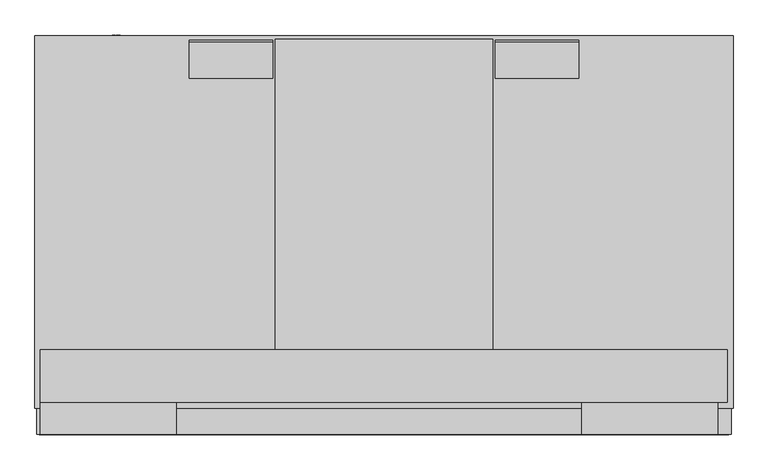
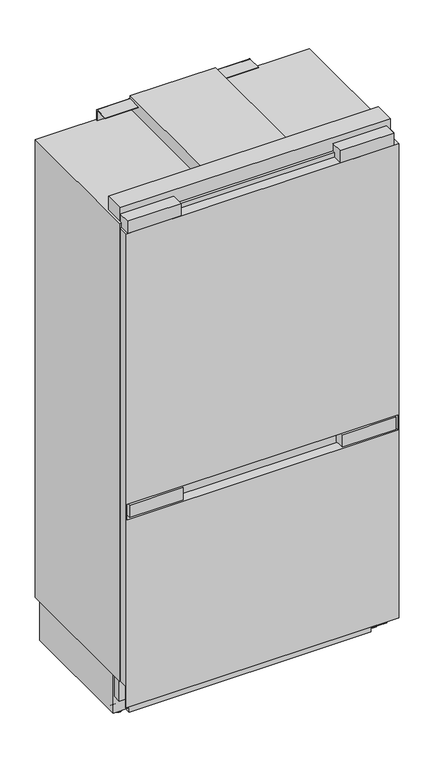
"""IFC4 building model written with IfcOpenShell, lengths in millimetres: proxy geometry, 12489440_USA_KFMC3858_FD : 38385820_USA_12489440_KFMC3858_FD."""

from ifc_helpers import new_model, si_unit, point, frame, frame_2d, origin, place, context, project, spatial, polyline, circle_curve, trimmed, segment, composite_curve, outline, extrude, faceted_brep, source, transform, mapped, element, save
from ifc_brep_helpers import plane_surface, cylinder_surface, advanced_brep


def specialty_equipment_91e2be40(model_context):
    return source(origin(), model_context, "Body", "SolidModel", [
        faceted_brep([(530.65, 19.5805006, 2048.9273907), (530.65, 19.5805006, 100.0958717), (530.65, 22.474204, 100.0958717), (530.65, 22.474204, 187.4499998), (530.65, 66.0, 187.4499998), (530.65, 66.0, 100.0958717), (530.65, 99.0001378, 100.0958717), (530.65, 99.0001378, 2048.9273907), (-530.65, 19.5805006, 2048.9273907), (-530.65, 99.0001378, 2048.9273907), (-530.65, 99.0001378, 100.0958717), (-530.65, 66.0, 100.0958717), (-530.65, 66.0, 187.4499998), (-530.65, 22.474204, 187.4499998), (-530.65, 22.474204, 100.0958717), (-530.65, 19.5805006, 100.0958717), (-526.65, 19.5805006, 934.8801375), (526.65, 19.5805006, 934.8801375), (526.65, 19.5805006, 872.4), (-526.65, 19.5805006, 872.4), (526.65, 93.7083842, 934.8801375), (-526.65, 93.7083842, 934.8801375), (-526.65, 93.7083842, 872.4), (526.65, 93.7083842, 872.4)], [[[0, 1, 2, 3, 4, 5, 6, 7]], [[8, 9, 10, 11, 12, 13, 14, 15]], [[1, 0, 8, 15], [16, 17, 18, 19]], [[1, 15, 14, 2]], [[10, 6, 5, 11]], [[7, 6, 10, 9]], [[0, 7, 9, 8]], [[13, 3, 2, 14]], [[4, 12, 11, 5]], [[3, 13, 12, 4]], [[20, 21, 22, 23]], [[21, 20, 17, 16]], [[22, 21, 16, 19]], [[23, 22, 19, 18]], [[20, 23, 18, 17]]]),
        extrude(outline(polyline([(-310.0497253, 19.5805006), (-517.949475, 19.5805006), (-517.949475, 69.0), (-310.0497253, 69.0), (-310.0497253, 19.5805006)])), frame((0.0, 0.0, 878.4), z_axis=(0.0, 0.0, 1.0), x_axis=(1.0, 0.0, 0.0)), (0.0, 0.0, 1.0), 50.4801375),
        extrude(outline(polyline([(517.949475, 19.5805006), (310.0497253, 19.5805006), (310.0497253, 69.0), (517.949475, 69.0), (517.949475, 19.5805006)])), frame((0.0, 0.0, 878.4), z_axis=(0.0, 0.0, 1.0), x_axis=(1.0, 0.0, 0.0)), (0.0, 0.0, 1.0), 50.4801375),
        extrude(outline(polyline([(-317.5994506, 19.5805006), (-525.4992003, 19.5805006), (-525.4992003, 69.0), (-317.5994506, 69.0), (-317.5994506, 19.5805006)])), frame((0.0, 0.0, 2048.9273907), z_axis=(0.0, 0.0, 1.0), x_axis=(1.0, 0.0, 0.0)), (0.0, 0.0, 1.0), 50.4801375),
        extrude(outline(polyline([(510.3997498, 19.5805006), (302.5, 19.5805006), (302.5, 69.0), (510.3997498, 69.0), (510.3997498, 19.5805006)])), frame((0.0, 0.0, 2048.9273907), z_axis=(0.0, 0.0, 1.0), x_axis=(1.0, 0.0, 0.0)), (0.0, 0.0, 1.0), 50.4801375),
        extrude(outline(composite_curve([segment(trimmed(circle_curve(frame_2d((619.3046941, 2111.8999939)), 2.5), [point((619.3046941, 2114.3999939))], [point((621.8046941, 2111.8999939))], False, "CARTESIAN"), True, "CONTINUOUS"), segment(polyline([(621.8046941, 2111.8999939), (621.8046941, 2068.8999998), (619.3046941, 2068.8999998), (619.3046941, 2112.2000427), (563.7854458, 2112.2000427), (563.7854458, 2114.3999939), (619.3046941, 2114.3999939)]), True, "CONTINUOUS")], self_intersect=False)), frame((170.0666274, 0.0, 0.0), z_axis=(1.0, 0.0, 0.0), x_axis=(0.0, 1.0, 0.0)), (0.0, 0.0, 1.0), 127.807223),
        extrude(outline(composite_curve([segment(trimmed(circle_curve(frame_2d((619.3046941, 2111.8999939)), 2.5), [point((619.3046941, 2114.3999939))], [point((621.8046941, 2111.8999939))], False, "CARTESIAN"), True, "CONTINUOUS"), segment(polyline([(621.8046941, 2111.8999939), (621.8046941, 2068.8999998), (619.3046941, 2068.8999998), (619.3046941, 2112.2000427), (563.7854458, 2112.2000427), (563.7854458, 2114.3999939), (619.3046941, 2114.3999939)]), True, "CONTINUOUS")], self_intersect=False)), frame((-297.8738504, 0.0, 0.0), z_axis=(1.0, 0.0, 0.0), x_axis=(0.0, 1.0, 0.0)), (0.0, 0.0, 1.0), 127.807223),
        faceted_brep([(533.5, 628.6068181, 2068.8999998), (-533.5, 628.6068181, 2068.8999998), (-533.5, 59.5250826, 2068.8999998), (533.5, 59.5250826, 2068.8999998), (533.5, 628.6068181, 187.4499998), (533.5, 59.5250826, 187.4499998), (-533.5, 59.5250826, 187.4499998), (-533.5, 628.6068181, 187.4499998), (-484.5265198, 59.5250826, 1999.0), (484.5265198, 59.5250826, 1999.0), (484.5265198, 59.5250826, 920.0), (-484.5265198, 59.5250826, 920.0), (-484.5265198, 59.5250826, 777.0), (484.5265198, 59.5250826, 777.0), (484.5265198, 59.5250826, 250.0), (-484.5265198, 59.5250826, 250.0), (484.5265198, 551.4500008, 1999.0), (-484.5265198, 551.4500008, 1999.0), (-484.5265198, 551.4500008, 920.0), (484.5265198, 551.4500008, 920.0), (484.5265198, 535.9500008, 777.0), (-484.5265198, 535.9500008, 777.0), (-484.5265198, 535.9500008, 250.0), (484.5265198, 535.9500008, 250.0)], [[[0, 1, 2, 3]], [[4, 5, 6, 7]], [[0, 3, 5, 4]], [[3, 2, 6, 5], [8, 9, 10, 11], [12, 13, 14, 15]], [[2, 1, 7, 6]], [[1, 0, 4, 7]], [[16, 17, 18, 19]], [[17, 16, 9, 8]], [[18, 17, 8, 11]], [[19, 18, 11, 10]], [[16, 19, 10, 9]], [[20, 21, 22, 23]], [[21, 20, 13, 12]], [[22, 21, 12, 15]], [[23, 22, 15, 14]], [[20, 23, 14, 13]]]),
        advanced_brep(
        [(-532.0, 599.2160102, 187.4499998), (532.0, 599.2160102, 187.4499998), (532.0, 599.2160102, 27.500001), (469.8898346, 599.2160102, 27.500001), (469.8898346, 599.2160102, 10.4), (-469.8898346, 599.2160102, 10.4), (-469.8898346, 599.2160102, 27.500001), (-532.0, 599.2160102, 27.500001), (532.0, 104.7548689, 187.4499998), (-532.0, 104.7548689, 187.4499998), (-532.0, 104.7548689, 27.500001), (-469.8898346, 104.7548689, 27.500001), (-469.8898346, 104.7548689, 10.4), (469.8898346, 104.7548689, 10.4), (469.8898346, 104.7548689, 27.500001), (532.0, 104.7548689, 27.500001), (-482.4950732, 165.8982312, 25.006546), (-482.4950732, 215.9113232, 25.006546), (-482.4950732, 215.7866989, 27.500001), (-482.4950732, 166.0228555, 27.500001), (-482.4950732, 488.6286933, 25.006546), (-482.4950732, 538.6417854, 25.006546), (-482.4950732, 538.517161, 27.500001), (-482.4950732, 488.7533177, 27.500001), (-500.0, 215.9113232, 25.006546), (-500.0, 165.8982312, 25.006546), (-500.0, 166.0228555, 27.500001), (-500.0, 215.7866989, 27.500001), (-500.0, 538.6417854, 25.006546), (-500.0, 488.6286933, 25.006546), (-500.0, 488.7533177, 27.500001), (-500.0, 538.517161, 27.500001), (500.0, 165.898139, 25.006546), (500.0, 215.911231, 25.006546), (500.0, 215.7866067, 27.500001), (500.0, 166.0227633, 27.500001), (500.0, 488.6286933, 25.006546), (500.0, 538.6417854, 25.006546), (500.0, 538.517161, 27.500001), (500.0, 488.7533177, 27.500001), (482.4950732, 215.911231, 25.006546), (482.4950732, 165.898139, 25.006546), (482.4950732, 166.0227633, 27.500001), (482.4950732, 215.7866067, 27.500001), (482.4950732, 538.6417854, 25.006546), (482.4950732, 488.6286933, 25.006546), (482.4950732, 488.7533177, 27.500001), (482.4950732, 538.517161, 27.500001)],
        [
            (0, 1),
            (1, 2),
            (2, 3),
            (3, 4),
            (4, 5),
            (5, 6),
            (6, 7),
            (7, 0),
            (8, 9),
            (9, 10),
            (10, 11),
            (11, 12),
            (12, 13),
            (13, 14),
            (14, 15),
            (15, 8),
            (0, 9),
            (8, 1),
            (7, 10),
            (4, 13),
            (12, 5),
            (15, 2),
            (16, 17, circle_curve(frame((-482.4950732, 190.9047772, 25.006546), z_axis=(1.0, 0.0, 0.0), x_axis=(0.0, 1.0, 0.0)), 25.006546)),
            (17, 18, circle_curve(frame((-482.4950732, 190.9047772, 25.006546), z_axis=(1.0, 0.0, 0.0), x_axis=(0.0, 1.0, 0.0)), 25.006546)),
            (18, 19),
            (19, 16, circle_curve(frame((-482.4950732, 190.9047772, 25.006546), z_axis=(1.0, 0.0, 0.0), x_axis=(0.0, 1.0, 0.0)), 25.006546)),
            (20, 21, circle_curve(frame((-482.4950732, 513.6352393, 25.006546), z_axis=(1.0, 0.0, 0.0), x_axis=(0.0, 1.0, 0.0)), 25.006546)),
            (21, 22, circle_curve(frame((-482.4950732, 513.6352393, 25.006546), z_axis=(1.0, 0.0, 0.0), x_axis=(0.0, 1.0, 0.0)), 25.006546)),
            (22, 23),
            (23, 20, circle_curve(frame((-482.4950732, 513.6352393, 25.006546), z_axis=(1.0, 0.0, 0.0), x_axis=(0.0, 1.0, 0.0)), 25.006546)),
            (24, 25, circle_curve(frame((-500.0, 190.9047772, 25.006546), z_axis=(-1.0, 0.0, 0.0), x_axis=(0.0, 1.0, 0.0)), 25.006546)),
            (25, 26, circle_curve(frame((-500.0, 190.9047772, 25.006546), z_axis=(-1.0, 0.0, 0.0), x_axis=(0.0, 1.0, 0.0)), 25.006546)),
            (26, 27),
            (27, 24, circle_curve(frame((-500.0, 190.9047772, 25.006546), z_axis=(-1.0, 0.0, 0.0), x_axis=(0.0, 1.0, 0.0)), 25.006546)),
            (28, 29, circle_curve(frame((-500.0, 513.6352393, 25.006546), z_axis=(-1.0, 0.0, 0.0), x_axis=(0.0, 1.0, 0.0)), 25.006546)),
            (29, 30, circle_curve(frame((-500.0, 513.6352393, 25.006546), z_axis=(-1.0, 0.0, 0.0), x_axis=(0.0, 1.0, 0.0)), 25.006546)),
            (30, 31),
            (31, 28, circle_curve(frame((-500.0, 513.6352393, 25.006546), z_axis=(-1.0, 0.0, 0.0), x_axis=(0.0, 1.0, 0.0)), 25.006546)),
            (16, 25),
            (24, 17),
            (20, 29),
            (28, 21),
            (32, 33, circle_curve(frame((500.0, 190.904685, 25.006546), z_axis=(1.0, 0.0, 0.0), x_axis=(0.0, 1.0, 0.0)), 25.006546)),
            (33, 34, circle_curve(frame((500.0, 190.904685, 25.006546), z_axis=(1.0, 0.0, 0.0), x_axis=(0.0, 1.0, 0.0)), 25.006546)),
            (34, 35),
            (35, 32, circle_curve(frame((500.0, 190.904685, 25.006546), z_axis=(1.0, 0.0, 0.0), x_axis=(0.0, 1.0, 0.0)), 25.006546)),
            (36, 37, circle_curve(frame((500.0, 513.6352393, 25.006546), z_axis=(1.0, 0.0, 0.0), x_axis=(0.0, 1.0, 0.0)), 25.006546)),
            (37, 38, circle_curve(frame((500.0, 513.6352393, 25.006546), z_axis=(1.0, 0.0, 0.0), x_axis=(0.0, 1.0, 0.0)), 25.006546)),
            (38, 39),
            (39, 36, circle_curve(frame((500.0, 513.6352393, 25.006546), z_axis=(1.0, 0.0, 0.0), x_axis=(0.0, 1.0, 0.0)), 25.006546)),
            (40, 41, circle_curve(frame((482.4950732, 190.904685, 25.006546), z_axis=(-1.0, 0.0, 0.0), x_axis=(0.0, 1.0, 0.0)), 25.006546)),
            (41, 42, circle_curve(frame((482.4950732, 190.904685, 25.006546), z_axis=(-1.0, 0.0, 0.0), x_axis=(0.0, 1.0, 0.0)), 25.006546)),
            (42, 43),
            (43, 40, circle_curve(frame((482.4950732, 190.904685, 25.006546), z_axis=(-1.0, 0.0, 0.0), x_axis=(0.0, 1.0, 0.0)), 25.006546)),
            (44, 45, circle_curve(frame((482.4950732, 513.6352393, 25.006546), z_axis=(-1.0, 0.0, 0.0), x_axis=(0.0, 1.0, 0.0)), 25.006546)),
            (45, 46, circle_curve(frame((482.4950732, 513.6352393, 25.006546), z_axis=(-1.0, 0.0, 0.0), x_axis=(0.0, 1.0, 0.0)), 25.006546)),
            (46, 47),
            (47, 44, circle_curve(frame((482.4950732, 513.6352393, 25.006546), z_axis=(-1.0, 0.0, 0.0), x_axis=(0.0, 1.0, 0.0)), 25.006546)),
            (32, 41),
            (40, 33),
            (36, 45),
            (44, 37),
            (19, 26),
            (27, 18),
            (23, 30),
            (31, 22),
            (43, 34),
            (35, 42),
            (47, 38),
            (39, 46),
            (11, 6),
            (14, 3),
        ],
        [
            plane_surface(frame((-532.0, 599.2160102, 187.4499998), z_axis=(0.0, 1.0, 0.0), x_axis=(1.0, 0.0, 0.0))),
            plane_surface(frame((-532.0, 104.7548689, 187.4499998), z_axis=(0.0, -1.0, 0.0), x_axis=(-1.0, 0.0, 0.0))),
            plane_surface(frame((532.0, 104.7548689, 187.4499998), z_axis=(0.0, 0.0, 1.0), x_axis=(0.0, 1.0, 0.0))),
            plane_surface(frame((-532.0, 104.7548689, 187.4499998), z_axis=(-1.0, 0.0, 0.0), x_axis=(0.0, 1.0, 0.0))),
            plane_surface(frame((-532.0, 104.7548689, 10.4), z_axis=(0.0, 0.0, -1.0), x_axis=(0.0, 1.0, 0.0))),
            plane_surface(frame((532.0, 104.7548689, 10.4), z_axis=(1.0, 0.0, 0.0), x_axis=(0.0, 1.0, 0.0))),
            plane_surface(frame((-482.4950732, 215.9113232, 25.006546), z_axis=(1.0, 0.0, 0.0), x_axis=(0.0, 0.0, 1.0))),
            plane_surface(frame((-500.0, 215.9113232, 25.006546), z_axis=(-1.0, 0.0, 0.0), x_axis=(0.0, 0.0, -1.0))),
            cylinder_surface(frame((-500.0, 190.9047772, 25.006546), z_axis=(1.0, 0.0, 0.0), x_axis=(0.0, 1.0, 0.0)), 25.006546),
            cylinder_surface(frame((0.0, 513.6352393, 25.006546), z_axis=(1.0, 0.0, 0.0), x_axis=(0.0, 1.0, 0.0)), 25.006546),
            plane_surface(frame((500.0, 215.911231, 25.006546), z_axis=(1.0, 0.0, 0.0), x_axis=(0.0, 0.0, 1.0))),
            plane_surface(frame((482.4950732, 215.911231, 25.006546), z_axis=(-1.0, 0.0, 0.0), x_axis=(0.0, 0.0, -1.0))),
            cylinder_surface(frame((500.0, 190.904685, 25.006546), z_axis=(-1.0, 0.0, 0.0), x_axis=(0.0, 1.0, 0.0)), 25.006546),
            cylinder_surface(frame((0.0, 513.6352393, 25.006546), z_axis=(-1.0, 0.0, 0.0), x_axis=(0.0, 1.0, 0.0)), 25.006546),
            plane_surface(frame((-469.8898346, -429.4357797, 0.0), z_axis=(-1.0, 0.0, 0.0), x_axis=(0.0, 1.0, 0.0))),
            plane_surface(frame((-469.8898346, -429.4357797, 27.500001), z_axis=(0.0, 0.0, -1.0), x_axis=(0.0, 1.0, 0.0))),
            plane_surface(frame((533.5, -429.4357797, 27.500001), z_axis=(0.0, 0.0, -1.0), x_axis=(0.0, 1.0, 0.0))),
            plane_surface(frame((469.8898346, -429.4357797, 27.500001), z_axis=(1.0, 0.0, 0.0), x_axis=(0.0, 1.0, 0.0))),
        ],
        [
            (0, [[1, 2, 3, 4, 5, 6, 7, 8]]),
            (1, [[9, 10, 11, 12, 13, 14, 15, 16]]),
            (2, [[-1, 17, -9, 18]]),
            (3, [[-17, -8, 19, -10]]),
            (4, [[-5, 20, -13, 21]]),
            (5, [[-18, -16, 22, -2]]),
            (6, [[23, 24, 25, 26]]),
            (6, [[27, 28, 29, 30]]),
            (7, [[31, 32, 33, 34]]),
            (7, [[35, 36, 37, 38]]),
            (8, [[-23, 39, -31, 40]]),
            (9, [[-27, 41, -35, 42]]),
            (10, [[43, 44, 45, 46]]),
            (10, [[47, 48, 49, 50]]),
            (11, [[51, 52, 53, 54]]),
            (11, [[55, 56, 57, 58]]),
            (12, [[-43, 59, -51, 60]]),
            (13, [[-47, 61, -55, 62]]),
            (8, [[-39, -26, 63, -32]]),
            (8, [[-40, -34, 64, -24]]),
            (9, [[-41, -30, 65, -36]]),
            (9, [[-42, -38, 66, -28]]),
            (12, [[-60, -54, 67, -44]]),
            (12, [[-59, -46, 68, -52]]),
            (13, [[-62, -58, 69, -48]]),
            (13, [[-61, -50, 70, -56]]),
            (14, [[71, -6, -21, -12]]),
            (15, [[-71, -11, -19, -7], [-25, -64, -33, -63], [-29, -66, -37, -65]]),
            (16, [[72, -3, -22, -15], [-45, -67, -53, -68], [-49, -69, -57, -70]]),
            (17, [[-72, -14, -20, -4]]),
        ],
    ),
        extrude(outline(composite_curve([segment(trimmed(circle_curve(frame_2d((-496.1, 136.7)), 15.0), [point((-511.1, 136.7))], [point((-481.1, 136.7))], False, "CARTESIAN"), True, "CONTINUOUS"), segment(trimmed(circle_curve(frame_2d((-496.1, 136.7)), 15.0), [point((-481.1, 136.7))], [point((-511.1, 136.7))], False, "CARTESIAN"), True, "CONTINUOUS")], self_intersect=False)), frame((0.0, 0.0, 10.4), z_axis=(0.0, 0.0, 1.0), x_axis=(1.0, 0.0, 0.0)), (0.0, 0.0, 1.0), 3.4999939),
        extrude(outline(composite_curve([segment(trimmed(circle_curve(frame_2d((496.1, 136.7)), 15.0), [point((481.1, 136.7))], [point((511.1, 136.7))], False, "CARTESIAN"), True, "CONTINUOUS"), segment(trimmed(circle_curve(frame_2d((496.1, 136.7)), 15.0), [point((511.1, 136.7))], [point((481.1, 136.7))], False, "CARTESIAN"), True, "CONTINUOUS")], self_intersect=False)), frame((0.0, 0.0, 10.4), z_axis=(0.0, 0.0, 1.0), x_axis=(1.0, 0.0, 0.0)), (0.0, 0.0, 1.0), 3.4999939),
        extrude(outline(composite_curve([segment(trimmed(circle_curve(frame_2d((496.1, 136.7)), 10.0), [point((486.1, 136.7))], [point((506.1, 136.7))], False, "CARTESIAN"), True, "CONTINUOUS"), segment(trimmed(circle_curve(frame_2d((496.1, 136.7)), 10.0), [point((506.1, 136.7))], [point((486.1, 136.7))], False, "CARTESIAN"), True, "CONTINUOUS")], self_intersect=False)), frame((0.0, 0.0, 13.8999939), z_axis=(0.0, 0.0, 1.0), x_axis=(1.0, 0.0, 0.0)), (0.0, 0.0, 1.0), 13.6000071),
        extrude(outline(composite_curve([segment(trimmed(circle_curve(frame_2d((-496.1, 136.7)), 10.0), [point((-506.1, 136.7))], [point((-486.1, 136.7))], False, "CARTESIAN"), True, "CONTINUOUS"), segment(trimmed(circle_curve(frame_2d((-496.1, 136.7)), 10.0), [point((-486.1, 136.7))], [point((-506.1, 136.7))], False, "CARTESIAN"), True, "CONTINUOUS")], self_intersect=False)), frame((0.0, 0.0, 13.8999939), z_axis=(0.0, 0.0, 1.0), x_axis=(1.0, 0.0, 0.0)), (0.0, 0.0, 1.0), 13.6000071),
        faceted_brep([(166.0, 623.4547186, 2122.8999939), (-166.0, 623.4547186, 2122.8999939), (-166.0, 149.0, 2122.8999939), (166.0, 149.0, 2122.8999939), (-166.0, 623.4547186, 2068.8999998), (166.0, 623.4547186, 2068.8999998), (166.0, 149.0, 2068.8999998), (524.6341127, 149.0, 2068.8999998), (524.6341127, 69.0, 2068.8999998), (-525.2652816, 69.0, 2068.8999998), (-525.2652816, 149.0, 2068.8999998), (-166.0, 149.0, 2068.8999998), (524.6341127, 69.0, 2124.5509637), (524.6341127, 149.0, 2124.5509637), (-525.2652816, 69.0, 2124.5509637), (-525.2652816, 149.0, 2124.5509637)], [[[0, 1, 2, 3]], [[4, 5, 6, 7, 8, 9, 10, 11]], [[5, 0, 3, 6]], [[1, 0, 5, 4]], [[1, 4, 11, 2]], [[12, 8, 7, 13]], [[14, 15, 10, 9]], [[8, 12, 14, 9]], [[13, 7, 6, 3, 2, 11, 10, 15]], [[12, 13, 15, 14]]]),
        extrude(outline(composite_curve([segment(trimmed(circle_curve(frame_2d((68.8909912, -409.0)), 8.0), [point((68.8909912, -417.0))], [point((68.8909912, -401.0))], False, "CARTESIAN"), True, "CONTINUOUS"), segment(trimmed(circle_curve(frame_2d((68.8909912, -409.0)), 8.0), [point((68.8909912, -401.0))], [point((68.8909912, -417.0))], False, "CARTESIAN"), True, "CONTINUOUS")], self_intersect=False)), frame((0.0, 599.2160102, 0.0), z_axis=(0.0, 1.0, 0.0), x_axis=(0.0, 0.0, 1.0)), (0.0, 0.0, 1.0), 30.0),
        extrude(outline(polyline([(64.7404068, -403.0981918), (72.7769116, -403.0981918), (72.7769116, -408.8744296), (71.7723485, -408.8744296), (71.7723485, -404.1027549), (69.3865111, -404.1027549), (69.3865111, -408.6232888), (68.381948, -408.6232888), (68.381948, -404.1027549), (65.7449699, -404.1027549), (65.7449699, -409.0), (64.7404068, -409.0), (64.7404068, -403.0981918)])), frame((0.0, 629.2160102, 0.0), z_axis=(0.0, 1.0, 0.0), x_axis=(0.0, 0.0, 1.0)), (0.0, 0.0, 1.0), 1.0),
        extrude(outline(polyline([(64.7404068, -410.5068447), (72.7769116, -410.5068447), (72.7769116, -411.5114078), (65.7449699, -411.5114078), (65.7449699, -415.5296602), (64.7404068, -415.5296602), (64.7404068, -410.5068447)])), frame((0.0, 629.2160102, 0.0), z_axis=(0.0, 1.0, 0.0), x_axis=(0.0, 0.0, 1.0)), (0.0, 0.0, 1.0), 1.0),
        extrude(outline(composite_curve([segment(trimmed(circle_curve(frame_2d((38.8909912, -307.0)), 8.0), [point((38.8909912, -315.0))], [point((38.8909912, -299.0))], False, "CARTESIAN"), True, "CONTINUOUS"), segment(trimmed(circle_curve(frame_2d((38.8909912, -307.0)), 8.0), [point((38.8909912, -299.0))], [point((38.8909912, -315.0))], False, "CARTESIAN"), True, "CONTINUOUS")], self_intersect=False)), frame((0.0, 599.2160102, 0.0), z_axis=(0.0, 1.0, 0.0), x_axis=(0.0, 0.0, 1.0)), (0.0, 0.0, 1.0), 30.0),
        extrude(outline(polyline([(35.5144425, -312.4875487), (43.5509473, -310.295953), (43.5509473, -311.3319087), (38.2691429, -312.6033089), (36.6386899, -312.9957164), (38.0807873, -313.4155923), (43.5509473, -315.0087666), (43.5509473, -316.501877), (39.5856699, -317.659479), (36.6386899, -318.5208134), (38.222054, -318.9014486), (43.5509473, -320.184621), (43.5509473, -321.2205767), (35.5144425, -319.027019), (35.5144425, -317.9537846), (41.7144804, -316.027064), (42.5797389, -315.7582649), (41.5378971, -315.4561111), (35.5144425, -313.7000877), (35.5144425, -312.4875487)])), frame((0.0, 628.6068181, 0.0), z_axis=(0.0, 1.0, 0.0), x_axis=(0.0, 0.0, 1.0)), (0.0, 0.0, 1.0), 1.0),
        extrude(outline(polyline([(35.5144425, -303.6407225), (43.5509473, -303.6407225), (43.5509473, -304.6452856), (39.6170625, -304.6452856), (43.5509473, -308.7655639), (43.5509473, -310.1703826), (40.2468765, -306.7113109), (35.5144425, -310.295953), (35.5144425, -309.0677177), (39.5680116, -305.9990913), (38.2769911, -304.6452856), (35.5144425, -304.6452856), (35.5144425, -303.6407225)])), frame((0.0, 628.6068181, 0.0), z_axis=(0.0, 1.0, 0.0), x_axis=(0.0, 0.0, 1.0)), (0.0, 0.0, 1.0), 1.0),
    ])


if __name__ == "__main__":
    model = new_model("IFC4")
    model_context = context("Model", 3, world=origin())
    ifc_project = project(units=[si_unit("LENGTHUNIT", "METRE", prefix="MILLI")], contexts=[model_context])
    site = spatial("IfcSite", under=ifc_project)
    building = spatial("IfcBuilding", under=site)
    placement = place(None, origin())
    specialty_equipment_shape = specialty_equipment_91e2be40(model_context)
    element("IfcBuildingElementProxy", 1, Name="12489440_USA_KFMC3858_FD : 38385820_USA_12489440_KFMC3858_FD", ObjectType="12489440_USA_KFMC3858_FD : 38385820_USA_12489440_KFMC3858_FD", at=placement, inside=building, context=model_context, shape_type="MappedRepresentation", body=[
        mapped(specialty_equipment_shape, transform((0.0, 0.0, 0.0), x_axis=(1.0, 0.0, 0.0), y_axis=(0.0, 1.0, 0.0), z_axis=(0.0, 0.0, 1.0))),
    ])
    save(model, "model.ifc")
